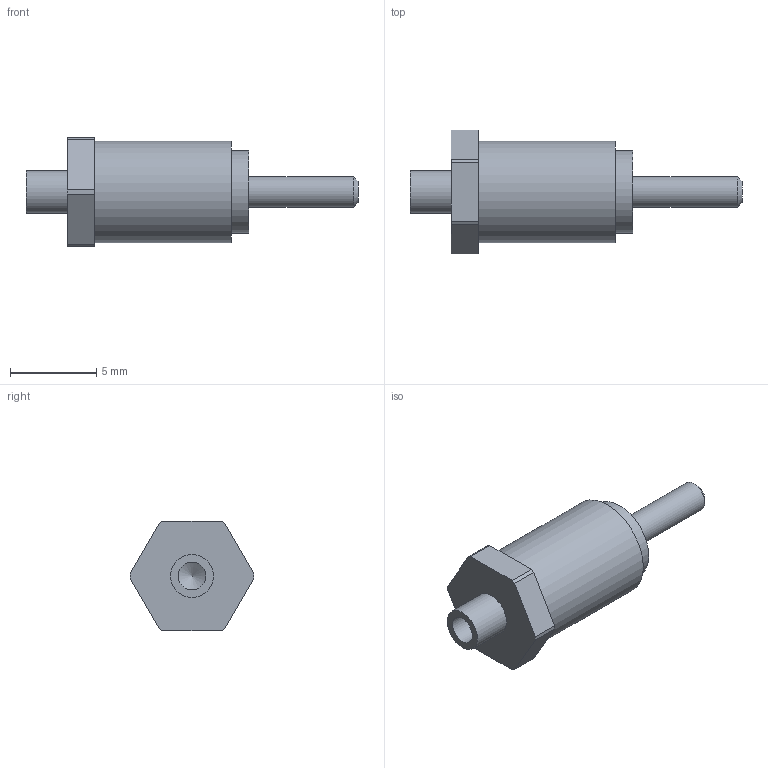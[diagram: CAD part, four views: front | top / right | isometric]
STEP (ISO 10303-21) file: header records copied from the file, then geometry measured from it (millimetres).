
FILE_DESCRIPTION(/* description */ (''),/* implementation_level */ '2;1');
FILE_NAME(/* name */ '\\Snap1\dwgs\Customer 3D Models\572\572-4848-01 Customer model.stp',/* time_stamp */ '2017-01-11T12:56:39+00:00',/* author */ ('paulk'),/* organization */ (''),/* preprocessor_version */ 'ST-DEVELOPER v15.2',/* originating_system */ 'Autodesk Inventor 2014',/* authorisation */ '');
FILE_SCHEMA (('CONFIG_CONTROL_DESIGN'));
Length unit declared in the file: millimetre
Products named in the file (1): 572-4848-01 Customer model
Bounding box: 19.28 x 7.2 x 6.35 mm (x, y, z)
Volume: 313.2 mm3; surface area: 329 mm2
Topology: 1 solids, 1 shells, 25 faces, 55 edges, 36 vertices
Faces by surface type: plane 12, cylinder 11, cone 2
Full cylindrical faces by diameter (mm): 1.613 x1, 1.778 x1, 2.489 x1, 4.775 x1, 5.893 x1
Entity records: 726 total; most frequent: DIRECTION 122, CARTESIAN_POINT 108, ORIENTED_EDGE 94, AXIS2_PLACEMENT_3D 49, EDGE_CURVE 47, EDGE_LOOP 36, VERTEX_POINT 35, STYLED_ITEM 26
